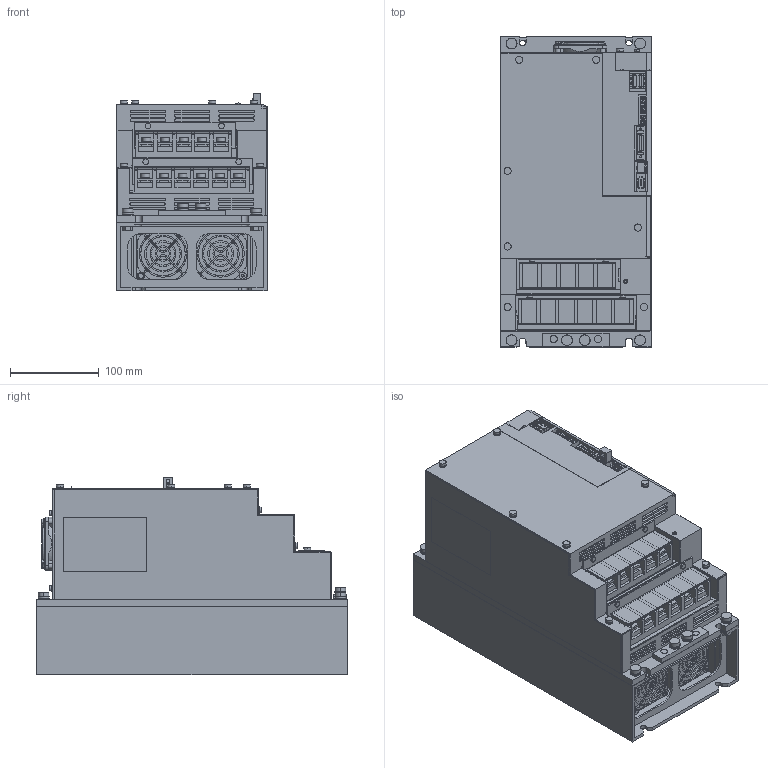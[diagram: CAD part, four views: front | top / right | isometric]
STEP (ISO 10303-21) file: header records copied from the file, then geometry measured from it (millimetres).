
FILE_DESCRIPTION (( 'STEP AP203' ), '1' );
FILE_NAME ('sgdv_470a1_a.STEP', '2011-12-22T05:31:19', ( '匠エンジニアリング山之内' ), ( 'TAKUMI-Engniaring' ), 'SwSTEP 2.0', 'SolidWorks 2006303', '' );
FILE_SCHEMA (( 'CONFIG_CONTROL_DESIGN' ));
Length unit declared in the file: millimetre
Products named in the file (7): sgdv_470a1_a_cover3; sgdv_470a1_a_cover4; sgdv_470a1_a; sgdv_470a1_a_base; sgdv_470a1_a_cover; sgdv_470a1_a_cover2; sgdv_470a1_a_connector
Assembly tree (7 placements, depth 2):
  sgdv_470a1_a
    sgdv_470a1_a_cover
    sgdv_470a1_a_base
    sgdv_470a1_a_cover2  x2
    sgdv_470a1_a_cover3
    sgdv_470a1_a_cover4
    sgdv_470a1_a_connector
Bounding box: 170.6 x 350 x 223 mm (x, y, z)
Volume: 10099586.8 mm3; surface area: 534339.1 mm2
Topology: 7 solids, 7 shells, 2573 faces, 7127 edges, 4705 vertices
Faces by surface type: plane 2056, cylinder 507, cone 9, sphere 1
Entity records: 81900 total; most frequent: CARTESIAN_POINT 14405, ORIENTED_EDGE 14146, DIRECTION 13439, EDGE_CURVE 7073, VECTOR 5805, LINE 5805, VERTEX_POINT 4669, AXIS2_PLACEMENT_3D 3817
